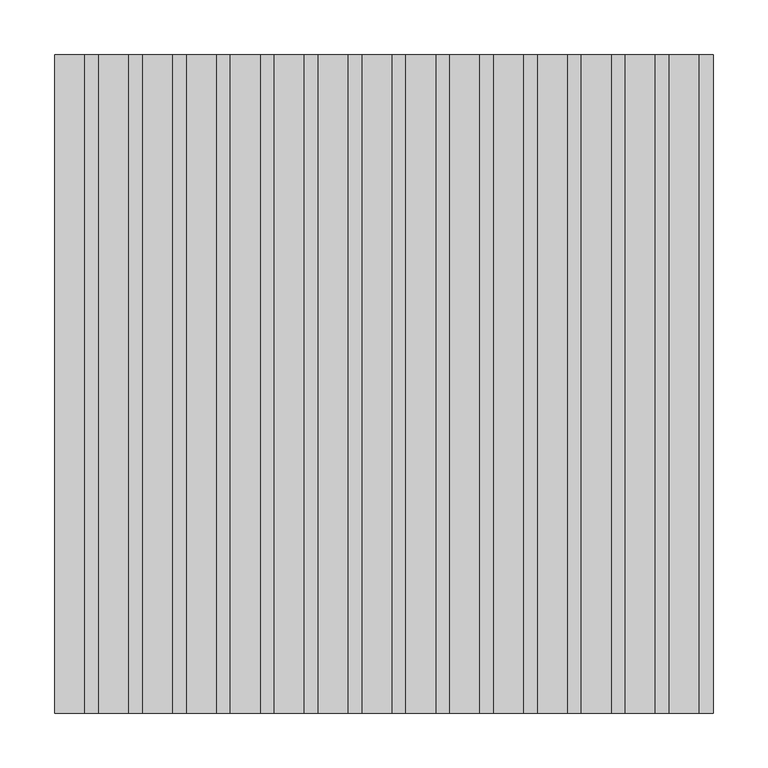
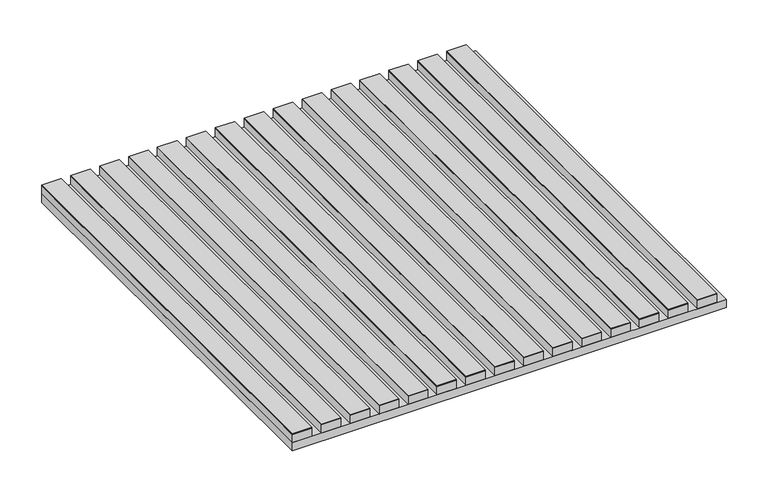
"""IFC4 building model written with IfcOpenShell, lengths in millimetres: proxy geometry, MODELO3D_PLAFONES_COMP 1.3dm."""

from ifc_helpers import new_model, si_unit, frame, origin, origin_with_axes, place, context, project, spatial, polyline, outline, extrude, source, transform, mapped, element, save


def generic_models_8722149c(model_context):
    return source(origin(), model_context, "Body", "SweptSolid", [
        extrude(outline(polyline([(-4003.3524269, 336.632562), (-4003.3524269, 936.632562), (-3403.3524269, 936.632562), (-3403.3524269, 336.632562), (-4003.3524269, 336.632562)])), origin_with_axes(), (0.0, 0.0, 1.0), 12.0),
        extrude(outline(polyline([(-4003.3524269, 336.632562), (-4003.3524269, 936.632562), (-3976.3524269, 936.632562), (-3976.3524269, 336.632562), (-4003.3524269, 336.632562)])), frame((0.0, 0.0, 12.0), z_axis=(0.0, 0.0, 1.0), x_axis=(1.0, 0.0, 0.0)), (0.0, 0.0, 1.0), 12.0),
        extrude(outline(polyline([(-3963.3524269, 336.632562), (-3963.3524269, 936.632562), (-3936.3524269, 936.632562), (-3936.3524269, 336.632562), (-3963.3524269, 336.632562)])), frame((0.0, 0.0, 12.0), z_axis=(0.0, 0.0, 1.0), x_axis=(1.0, 0.0, 0.0)), (0.0, 0.0, 1.0), 12.0),
        extrude(outline(polyline([(-3923.3524269, 336.632562), (-3923.3524269, 936.632562), (-3896.3524269, 936.632562), (-3896.3524269, 336.632562), (-3923.3524269, 336.632562)])), frame((0.0, 0.0, 12.0), z_axis=(0.0, 0.0, 1.0), x_axis=(1.0, 0.0, 0.0)), (0.0, 0.0, 1.0), 12.0),
        extrude(outline(polyline([(-3883.3524269, 336.632562), (-3883.3524269, 936.632562), (-3856.3524269, 936.632562), (-3856.3524269, 336.632562), (-3883.3524269, 336.632562)])), frame((0.0, 0.0, 12.0), z_axis=(0.0, 0.0, 1.0), x_axis=(1.0, 0.0, 0.0)), (0.0, 0.0, 1.0), 12.0),
        extrude(outline(polyline([(-3843.3524269, 336.632562), (-3843.3524269, 936.632562), (-3816.3524269, 936.632562), (-3816.3524269, 336.632562), (-3843.3524269, 336.632562)])), frame((0.0, 0.0, 12.0), z_axis=(0.0, 0.0, 1.0), x_axis=(1.0, 0.0, 0.0)), (0.0, 0.0, 1.0), 12.0),
        extrude(outline(polyline([(-3803.3524269, 336.632562), (-3803.3524269, 936.632562), (-3776.3524269, 936.632562), (-3776.3524269, 336.632562), (-3803.3524269, 336.632562)])), frame((0.0, 0.0, 12.0), z_axis=(0.0, 0.0, 1.0), x_axis=(1.0, 0.0, 0.0)), (0.0, 0.0, 1.0), 12.0),
        extrude(outline(polyline([(-3763.3524269, 336.632562), (-3763.3524269, 936.632562), (-3736.3524269, 936.632562), (-3736.3524269, 336.632562), (-3763.3524269, 336.632562)])), frame((0.0, 0.0, 12.0), z_axis=(0.0, 0.0, 1.0), x_axis=(1.0, 0.0, 0.0)), (0.0, 0.0, 1.0), 12.0),
        extrude(outline(polyline([(-3723.3524269, 336.632562), (-3723.3524269, 936.632562), (-3696.3524269, 936.632562), (-3696.3524269, 336.632562), (-3723.3524269, 336.632562)])), frame((0.0, 0.0, 12.0), z_axis=(0.0, 0.0, 1.0), x_axis=(1.0, 0.0, 0.0)), (0.0, 0.0, 1.0), 12.0),
        extrude(outline(polyline([(-3683.3524269, 336.632562), (-3683.3524269, 936.632562), (-3656.3524269, 936.632562), (-3656.3524269, 336.632562), (-3683.3524269, 336.632562)])), frame((0.0, 0.0, 12.0), z_axis=(0.0, 0.0, 1.0), x_axis=(1.0, 0.0, 0.0)), (0.0, 0.0, 1.0), 12.0),
        extrude(outline(polyline([(-3643.3524269, 336.632562), (-3643.3524269, 936.632562), (-3616.3524269, 936.632562), (-3616.3524269, 336.632562), (-3643.3524269, 336.632562)])), frame((0.0, 0.0, 12.0), z_axis=(0.0, 0.0, 1.0), x_axis=(1.0, 0.0, 0.0)), (0.0, 0.0, 1.0), 12.0),
        extrude(outline(polyline([(-3603.3524269, 336.632562), (-3603.3524269, 936.632562), (-3576.3524269, 936.632562), (-3576.3524269, 336.632562), (-3603.3524269, 336.632562)])), frame((0.0, 0.0, 12.0), z_axis=(0.0, 0.0, 1.0), x_axis=(1.0, 0.0, 0.0)), (0.0, 0.0, 1.0), 12.0),
        extrude(outline(polyline([(-3563.3524269, 336.632562), (-3563.3524269, 936.632562), (-3536.3524269, 936.632562), (-3536.3524269, 336.632562), (-3563.3524269, 336.632562)])), frame((0.0, 0.0, 12.0), z_axis=(0.0, 0.0, 1.0), x_axis=(1.0, 0.0, 0.0)), (0.0, 0.0, 1.0), 12.0),
        extrude(outline(polyline([(-3523.3524269, 336.632562), (-3523.3524269, 936.632562), (-3496.3524269, 936.632562), (-3496.3524269, 336.632562), (-3523.3524269, 336.632562)])), frame((0.0, 0.0, 12.0), z_axis=(0.0, 0.0, 1.0), x_axis=(1.0, 0.0, 0.0)), (0.0, 0.0, 1.0), 12.0),
        extrude(outline(polyline([(-3483.3524269, 336.632562), (-3483.3524269, 936.632562), (-3456.3524269, 936.632562), (-3456.3524269, 336.632562), (-3483.3524269, 336.632562)])), frame((0.0, 0.0, 12.0), z_axis=(0.0, 0.0, 1.0), x_axis=(1.0, 0.0, 0.0)), (0.0, 0.0, 1.0), 12.0),
        extrude(outline(polyline([(-3443.3524269, 336.632562), (-3443.3524269, 936.632562), (-3416.3524269, 936.632562), (-3416.3524269, 336.632562), (-3443.3524269, 336.632562)])), frame((0.0, 0.0, 12.0), z_axis=(0.0, 0.0, 1.0), x_axis=(1.0, 0.0, 0.0)), (0.0, 0.0, 1.0), 12.0),
        extrude(outline(polyline([(-4003.3524269, 336.632562), (-4003.3524269, 936.632562), (-3976.3524269, 936.632562), (-3976.3524269, 336.632562), (-4003.3524269, 336.632562)])), frame((0.0, 0.0, 24.0), z_axis=(0.0, 0.0, 1.0), x_axis=(1.0, 0.0, 0.0)), (0.0, 0.0, 1.0), 1.0),
        extrude(outline(polyline([(-3963.3524269, 336.632562), (-3963.3524269, 936.632562), (-3936.3524269, 936.632562), (-3936.3524269, 336.632562), (-3963.3524269, 336.632562)])), frame((0.0, 0.0, 24.0), z_axis=(0.0, 0.0, 1.0), x_axis=(1.0, 0.0, 0.0)), (0.0, 0.0, 1.0), 1.0),
        extrude(outline(polyline([(-3923.3524269, 336.632562), (-3923.3524269, 936.632562), (-3896.3524269, 936.632562), (-3896.3524269, 336.632562), (-3923.3524269, 336.632562)])), frame((0.0, 0.0, 24.0), z_axis=(0.0, 0.0, 1.0), x_axis=(1.0, 0.0, 0.0)), (0.0, 0.0, 1.0), 1.0),
        extrude(outline(polyline([(-3883.3524269, 336.632562), (-3883.3524269, 936.632562), (-3856.3524269, 936.632562), (-3856.3524269, 336.632562), (-3883.3524269, 336.632562)])), frame((0.0, 0.0, 24.0), z_axis=(0.0, 0.0, 1.0), x_axis=(1.0, 0.0, 0.0)), (0.0, 0.0, 1.0), 1.0),
        extrude(outline(polyline([(-3843.3524269, 336.632562), (-3843.3524269, 936.632562), (-3816.3524269, 936.632562), (-3816.3524269, 336.632562), (-3843.3524269, 336.632562)])), frame((0.0, 0.0, 24.0), z_axis=(0.0, 0.0, 1.0), x_axis=(1.0, 0.0, 0.0)), (0.0, 0.0, 1.0), 1.0),
        extrude(outline(polyline([(-3803.3524269, 336.632562), (-3803.3524269, 936.632562), (-3776.3524269, 936.632562), (-3776.3524269, 336.632562), (-3803.3524269, 336.632562)])), frame((0.0, 0.0, 24.0), z_axis=(0.0, 0.0, 1.0), x_axis=(1.0, 0.0, 0.0)), (0.0, 0.0, 1.0), 1.0),
        extrude(outline(polyline([(-3763.3524269, 336.632562), (-3763.3524269, 936.632562), (-3736.3524269, 936.632562), (-3736.3524269, 336.632562), (-3763.3524269, 336.632562)])), frame((0.0, 0.0, 24.0), z_axis=(0.0, 0.0, 1.0), x_axis=(1.0, 0.0, 0.0)), (0.0, 0.0, 1.0), 1.0),
        extrude(outline(polyline([(-3723.3524269, 336.632562), (-3723.3524269, 936.632562), (-3696.3524269, 936.632562), (-3696.3524269, 336.632562), (-3723.3524269, 336.632562)])), frame((0.0, 0.0, 24.0), z_axis=(0.0, 0.0, 1.0), x_axis=(1.0, 0.0, 0.0)), (0.0, 0.0, 1.0), 1.0),
        extrude(outline(polyline([(-3683.3524269, 336.632562), (-3683.3524269, 936.632562), (-3656.3524269, 936.632562), (-3656.3524269, 336.632562), (-3683.3524269, 336.632562)])), frame((0.0, 0.0, 24.0), z_axis=(0.0, 0.0, 1.0), x_axis=(1.0, 0.0, 0.0)), (0.0, 0.0, 1.0), 1.0),
        extrude(outline(polyline([(-3643.3524269, 336.632562), (-3643.3524269, 936.632562), (-3616.3524269, 936.632562), (-3616.3524269, 336.632562), (-3643.3524269, 336.632562)])), frame((0.0, 0.0, 24.0), z_axis=(0.0, 0.0, 1.0), x_axis=(1.0, 0.0, 0.0)), (0.0, 0.0, 1.0), 1.0),
        extrude(outline(polyline([(-3603.3524269, 336.632562), (-3603.3524269, 936.632562), (-3576.3524269, 936.632562), (-3576.3524269, 336.632562), (-3603.3524269, 336.632562)])), frame((0.0, 0.0, 24.0), z_axis=(0.0, 0.0, 1.0), x_axis=(1.0, 0.0, 0.0)), (0.0, 0.0, 1.0), 1.0),
        extrude(outline(polyline([(-3563.3524269, 336.632562), (-3563.3524269, 936.632562), (-3536.3524269, 936.632562), (-3536.3524269, 336.632562), (-3563.3524269, 336.632562)])), frame((0.0, 0.0, 24.0), z_axis=(0.0, 0.0, 1.0), x_axis=(1.0, 0.0, 0.0)), (0.0, 0.0, 1.0), 1.0),
        extrude(outline(polyline([(-3523.3524269, 336.632562), (-3523.3524269, 936.632562), (-3496.3524269, 936.632562), (-3496.3524269, 336.632562), (-3523.3524269, 336.632562)])), frame((0.0, 0.0, 24.0), z_axis=(0.0, 0.0, 1.0), x_axis=(1.0, 0.0, 0.0)), (0.0, 0.0, 1.0), 1.0),
        extrude(outline(polyline([(-3483.3524269, 336.632562), (-3483.3524269, 936.632562), (-3456.3524269, 936.632562), (-3456.3524269, 336.632562), (-3483.3524269, 336.632562)])), frame((0.0, 0.0, 24.0), z_axis=(0.0, 0.0, 1.0), x_axis=(1.0, 0.0, 0.0)), (0.0, 0.0, 1.0), 1.0),
        extrude(outline(polyline([(-3443.3524269, 336.632562), (-3443.3524269, 936.632562), (-3416.3524269, 936.632562), (-3416.3524269, 336.632562), (-3443.3524269, 336.632562)])), frame((0.0, 0.0, 24.0), z_axis=(0.0, 0.0, 1.0), x_axis=(1.0, 0.0, 0.0)), (0.0, 0.0, 1.0), 1.0),
    ])


if __name__ == "__main__":
    model = new_model("IFC4")
    model_context = context("Model", 3, world=origin())
    ifc_project = project(units=[si_unit("LENGTHUNIT", "METRE", prefix="MILLI")], contexts=[model_context])
    site = spatial("IfcSite", under=ifc_project)
    building = spatial("IfcBuilding", under=site)
    placement = place(None, origin())
    generic_models_shape = generic_models_8722149c(model_context)
    element("IfcBuildingElementProxy", 1, Name="MODELO3D_PLAFONES_COMP 1.3dm", ObjectType="MODELO3D_PLAFONES_COMP 1.3dm", at=placement, inside=building, context=model_context, shape_type="MappedRepresentation", body=[
        mapped(generic_models_shape, transform((0.0, 0.0, 0.0), x_axis=(1.0, 0.0, 0.0), y_axis=(0.0, 1.0, 0.0), z_axis=(0.0, 0.0, 1.0))),
    ])
    save(model, "model.ifc")
